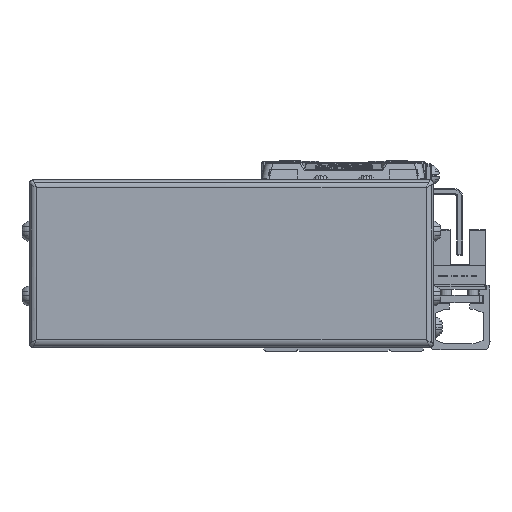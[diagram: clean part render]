
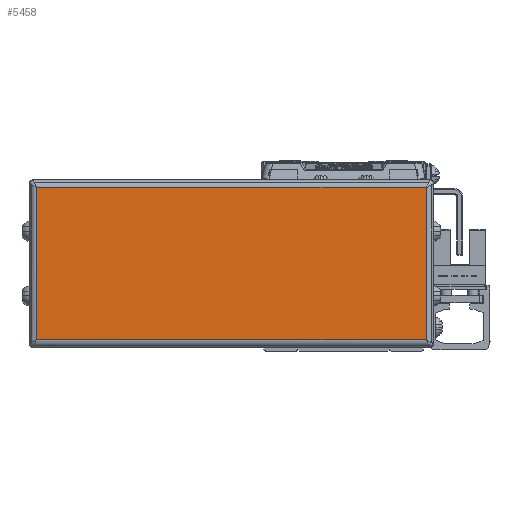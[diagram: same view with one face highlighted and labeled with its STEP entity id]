
A CAD part, left-side view. The second image highlights one B-rep face of the part: STEP entity #5458.
In plain terms, the highlighted planar face has unit normal (-1, 0, 0).
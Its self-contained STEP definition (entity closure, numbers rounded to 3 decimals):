
#5458=ADVANCED_FACE('',(#11800),#11801,.F.);
#11800=FACE_OUTER_BOUND('',#21056,.T.);
#11801=PLANE('',#21057);
#21056=EDGE_LOOP('',(#37568,#37569,#37570,#37571));
#21057=AXIS2_PLACEMENT_3D('',#37572,#37573,#37574);
#37568=ORIENTED_EDGE('',*,*,#49425,.T.);
#37569=ORIENTED_EDGE('',*,*,#52771,.T.);
#37570=ORIENTED_EDGE('',*,*,#51097,.T.);
#37571=ORIENTED_EDGE('',*,*,#52772,.T.);
#37572=CARTESIAN_POINT('',(-48.,29.5,-4.));
#37573=DIRECTION('',(1.0,0.,0.));
#37574=DIRECTION('',(0.,0.,1.0));
#49425=EDGE_CURVE('',#59758,#57448,#59759,.T.);
#51097=EDGE_CURVE('',#62295,#57924,#62296,.T.);
#52771=EDGE_CURVE('',#57448,#62295,#64577,.T.);
#52772=EDGE_CURVE('',#57924,#59758,#64578,.T.);
#57448=VERTEX_POINT('',#70776);
#57924=VERTEX_POINT('',#71494);
#59758=VERTEX_POINT('',#74038);
#59759=LINE('',#74039,#74040);
#62295=VERTEX_POINT('',#77723);
#62296=LINE('',#77724,#77725);
#64577=LINE('',#80963,#80964);
#64578=LINE('',#80965,#80966);
#70776=CARTESIAN_POINT('',(-48.,80.7,16.));
#71494=CARTESIAN_POINT('',(-48.,-21.7,-24.));
#74038=CARTESIAN_POINT('',(-48.,-21.7,16.));
#74039=CARTESIAN_POINT('',(-48.,29.5,16.));
#74040=VECTOR('',#88329,10.0);
#77723=CARTESIAN_POINT('',(-48.,80.7,-24.));
#77724=CARTESIAN_POINT('',(-48.,29.5,-24.));
#77725=VECTOR('',#90409,10.0);
#80963=CARTESIAN_POINT('',(-48.,80.7,-4.));
#80964=VECTOR('',#92427,10.0);
#80965=CARTESIAN_POINT('',(-48.,-21.7,-4.));
#80966=VECTOR('',#92428,10.0);
#88329=DIRECTION('',(0.,1.0,0.));
#90409=DIRECTION('',(0.,-1.0,0.));
#92427=DIRECTION('',(0.,0.,-1.0));
#92428=DIRECTION('',(0.,0.,1.0));
